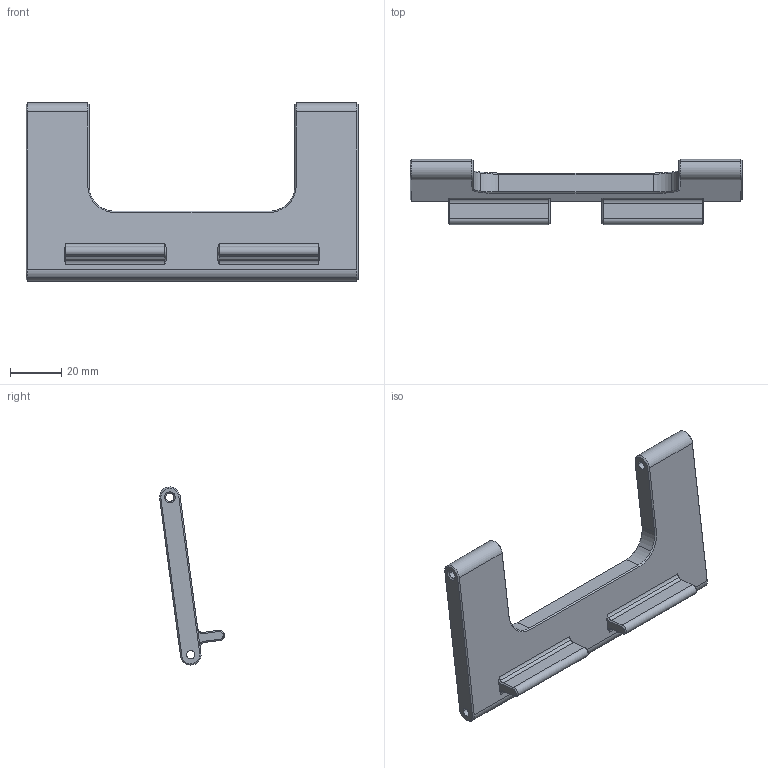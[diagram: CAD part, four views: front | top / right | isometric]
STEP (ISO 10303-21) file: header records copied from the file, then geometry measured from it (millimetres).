
FILE_DESCRIPTION(('STEP AP214'),'1');
FILE_NAME('Tray2.STP','2024-09-09T07:39:52',(' '),(' '),'Spatial InterOp 3D',' ',' ');
FILE_SCHEMA(('AUTOMOTIVE_DESIGN { 1 0 10303 214 1 1 1 1 }'));
Length unit declared in the file: millimetre
Products named in the file (1): Quader
Bounding box: 129 x 25.23 x 69.21 mm (x, y, z)
Volume: 45304.5 mm3; surface area: 17363.3 mm2
Topology: 1 solids, 1 shells, 109 faces, 263 edges, 158 vertices
Faces by surface type: cone 48, plane 33, cylinder 28
Entity records: 3184 total; most frequent: DIRECTION 589, CARTESIAN_POINT 547, ORIENTED_EDGE 526, EDGE_CURVE 263, AXIS2_PLACEMENT_3D 224, VERTEX_POINT 158, LINE 141, VECTOR 141
